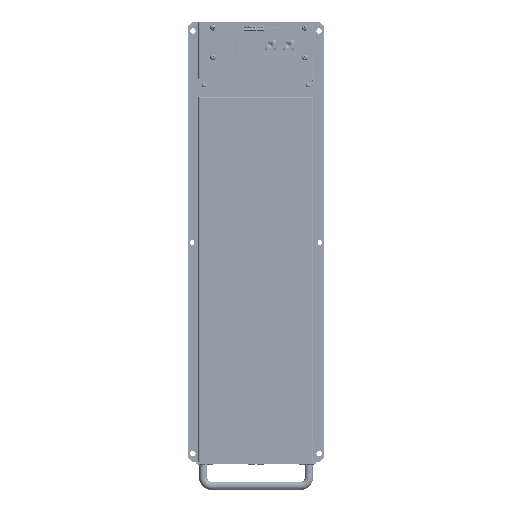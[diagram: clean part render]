
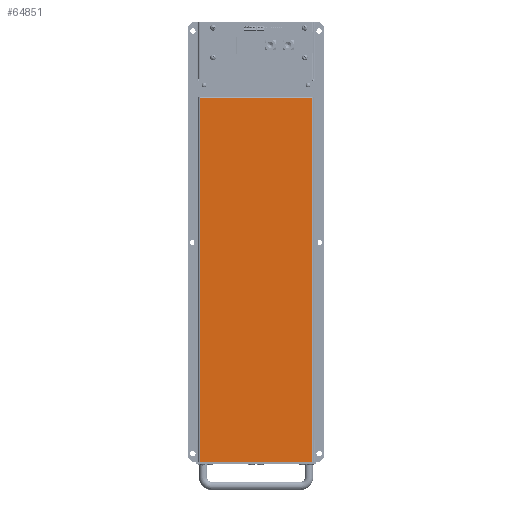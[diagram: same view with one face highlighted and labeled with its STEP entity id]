
A CAD part, front view. The second image highlights one B-rep face of the part: STEP entity #64851.
In plain terms, the highlighted planar face has unit normal (0, -1, 0) as drawn and (0, 0, 1) by its records, which use the part's own axes.
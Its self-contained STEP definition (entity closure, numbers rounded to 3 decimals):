
#64851=ADVANCED_FACE('',(#138905),#138907,.T.);
#138905=FACE_BOUND('',#138906,.T.);
#138906=EDGE_LOOP('',(#197228,#197229,#197230,#197231,#197232,#197233));
#138907=PLANE('',#138908);
#138908=AXIS2_PLACEMENT_3D('',#138909,#138910,#138911);
#138909=CARTESIAN_POINT('',(0.,0.,1.));
#138910=DIRECTION('',(0.,0.,1.));
#138911=DIRECTION('',(1.,0.,0.));
#197228=ORIENTED_EDGE('',*,*,#230124,.T.);
#197229=ORIENTED_EDGE('',*,*,#230125,.T.);
#197230=ORIENTED_EDGE('',*,*,#230126,.T.);
#197231=ORIENTED_EDGE('',*,*,#230127,.T.);
#197232=ORIENTED_EDGE('',*,*,#230128,.T.);
#197233=ORIENTED_EDGE('',*,*,#230115,.T.);
#230115=EDGE_CURVE('',#266125,#266123,#266126,.T.);
#230124=EDGE_CURVE('',#266123,#266139,#266140,.F.);
#230125=EDGE_CURVE('',#266139,#266141,#266142,.T.);
#230126=EDGE_CURVE('',#266141,#266143,#266144,.T.);
#230127=EDGE_CURVE('',#266143,#266145,#266146,.T.);
#230128=EDGE_CURVE('',#266145,#266125,#266147,.F.);
#266123=VERTEX_POINT('',#364188);
#266125=VERTEX_POINT('',#364193);
#266126=LINE('',#364194,#364195);
#266139=VERTEX_POINT('',#364226);
#266140=LINE('',#364227,#364228);
#266141=VERTEX_POINT('',#364230);
#266142=LINE('',#364231,#364232);
#266143=VERTEX_POINT('',#364234);
#266144=LINE('',#364235,#364236);
#266145=VERTEX_POINT('',#364238);
#266146=LINE('',#364239,#364240);
#266147=LINE('',#364242,#364243);
#364188=CARTESIAN_POINT('',(441.,135.5,1.));
#364193=CARTESIAN_POINT('',(441.,0.5,1.));
#364194=CARTESIAN_POINT('',(441.,0.5,1.));
#364195=VECTOR('',#364196,1.);
#364196=DIRECTION('',(0.,1.,0.));
#364226=CARTESIAN_POINT('',(441.,136.,1.));
#364227=CARTESIAN_POINT('',(441.,136.,1.));
#364228=VECTOR('',#364229,1.);
#364229=DIRECTION('',(0.,-1.,0.));
#364230=CARTESIAN_POINT('',(0.,136.,1.));
#364231=CARTESIAN_POINT('',(441.,136.,1.));
#364232=VECTOR('',#364233,1.);
#364233=DIRECTION('',(-1.,0.,0.));
#364234=CARTESIAN_POINT('',(0.,0.,1.));
#364235=CARTESIAN_POINT('',(0.,136.,1.));
#364236=VECTOR('',#364237,1.);
#364237=DIRECTION('',(0.,-1.,0.));
#364238=CARTESIAN_POINT('',(441.,0.,1.));
#364239=CARTESIAN_POINT('',(0.,0.,1.));
#364240=VECTOR('',#364241,1.);
#364241=DIRECTION('',(1.,0.,0.));
#364242=CARTESIAN_POINT('',(441.,0.5,1.));
#364243=VECTOR('',#364244,1.);
#364244=DIRECTION('',(0.,-1.,0.));
